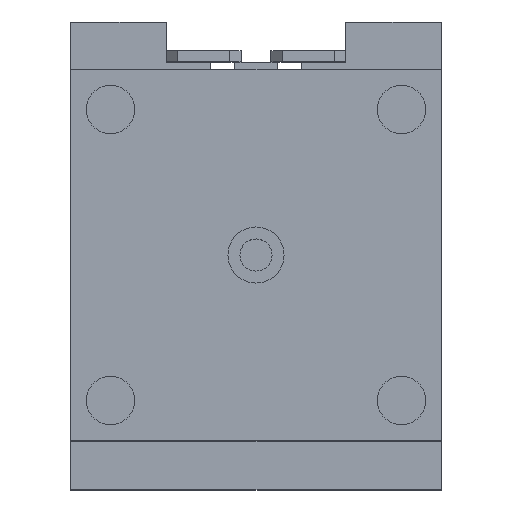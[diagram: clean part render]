
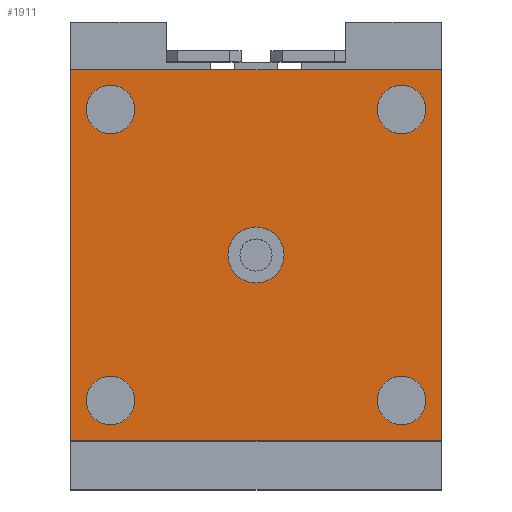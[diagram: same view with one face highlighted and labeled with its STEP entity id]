
A CAD part, top view. The second image highlights one B-rep face of the part: STEP entity #1911.
In plain terms, the highlighted planar face has unit normal (0, 0, 1).
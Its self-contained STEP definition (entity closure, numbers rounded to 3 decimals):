
#73=CARTESIAN_POINT('',(32.391,-38.891,174.));
#74=VERTEX_POINT('',#73);
#75=CARTESIAN_POINT('',(38.891,-38.891,174.));
#76=DIRECTION('',(0.0,0.0,-1.0));
#77=DIRECTION('',(1.0,0.0,0.0));
#78=AXIS2_PLACEMENT_3D('',#75,#76,#77);
#79=CIRCLE('',#78,6.5);
#80=EDGE_CURVE('',#74,#74,#79,.T.);
#110=CARTESIAN_POINT('',(-32.391,38.891,174.));
#111=VERTEX_POINT('',#110);
#112=CARTESIAN_POINT('',(-38.891,38.891,174.));
#113=DIRECTION('',(0.0,0.0,-1.0));
#114=DIRECTION('',(-1.0,0.0,0.0));
#115=AXIS2_PLACEMENT_3D('',#112,#113,#114);
#116=CIRCLE('',#115,6.5);
#117=EDGE_CURVE('',#111,#111,#116,.T.);
#1785=CARTESIAN_POINT('',(7.5,0.0,174.));
#1786=VERTEX_POINT('',#1785);
#1787=CARTESIAN_POINT('',(0.0,0.0,174.));
#1788=DIRECTION('',(0.0,0.0,-1.0));
#1789=DIRECTION('',(1.0,0.0,0.0));
#1790=AXIS2_PLACEMENT_3D('',#1787,#1788,#1789);
#1791=CIRCLE('',#1790,7.5);
#1792=EDGE_CURVE('',#1786,#1786,#1791,.T.);
#1841=CARTESIAN_POINT('',(0.,0.,174.));
#1842=DIRECTION('',(0.0,0.0,1.0));
#1843=DIRECTION('',(1.0,0.0,0.0));
#1844=AXIS2_PLACEMENT_3D('',#1841,#1842,#1843);
#1845=PLANE('',#1844);
#1846=CARTESIAN_POINT('',(49.5,49.5,174.));
#1847=VERTEX_POINT('',#1846);
#1848=CARTESIAN_POINT('',(49.5,-49.5,174.));
#1849=VERTEX_POINT('',#1848);
#1850=CARTESIAN_POINT('',(49.5,49.5,174.));
#1851=DIRECTION('',(0.0,-1.0,0.0));
#1852=VECTOR('',#1851,99.0);
#1853=LINE('',#1850,#1852);
#1854=EDGE_CURVE('',#1847,#1849,#1853,.T.);
#1855=ORIENTED_EDGE('',*,*,#1854,.F.);
#1856=CARTESIAN_POINT('',(-49.5,49.5,174.));
#1857=VERTEX_POINT('',#1856);
#1858=CARTESIAN_POINT('',(-49.5,49.5,174.));
#1859=DIRECTION('',(1.0,0.0,0.0));
#1860=VECTOR('',#1859,99.0);
#1861=LINE('',#1858,#1860);
#1862=EDGE_CURVE('',#1857,#1847,#1861,.T.);
#1863=ORIENTED_EDGE('',*,*,#1862,.F.);
#1864=CARTESIAN_POINT('',(-49.5,-49.5,174.));
#1865=VERTEX_POINT('',#1864);
#1866=CARTESIAN_POINT('',(-49.5,-49.5,174.));
#1867=DIRECTION('',(0.0,1.0,0.0));
#1868=VECTOR('',#1867,99.0);
#1869=LINE('',#1866,#1868);
#1870=EDGE_CURVE('',#1865,#1857,#1869,.T.);
#1871=ORIENTED_EDGE('',*,*,#1870,.F.);
#1872=CARTESIAN_POINT('',(49.5,-49.5,174.));
#1873=DIRECTION('',(-1.0,0.0,0.0));
#1874=VECTOR('',#1873,99.);
#1875=LINE('',#1872,#1874);
#1876=EDGE_CURVE('',#1849,#1865,#1875,.T.);
#1877=ORIENTED_EDGE('',*,*,#1876,.F.);
#1878=EDGE_LOOP('',(#1855,#1863,#1871,#1877));
#1879=FACE_OUTER_BOUND('',#1878,.T.);
#1880=CARTESIAN_POINT('',(38.891,32.391,174.));
#1881=VERTEX_POINT('',#1880);
#1882=CARTESIAN_POINT('',(38.891,38.891,174.));
#1883=DIRECTION('',(0.0,0.0,-1.0));
#1884=DIRECTION('',(0.0,1.0,0.0));
#1885=AXIS2_PLACEMENT_3D('',#1882,#1883,#1884);
#1886=CIRCLE('',#1885,6.5);
#1887=EDGE_CURVE('',#1881,#1881,#1886,.T.);
#1888=ORIENTED_EDGE('',*,*,#1887,.T.);
#1889=EDGE_LOOP('',(#1888));
#1890=FACE_BOUND('',#1889,.T.);
#1891=ORIENTED_EDGE('',*,*,#80,.T.);
#1892=EDGE_LOOP('',(#1891));
#1893=FACE_BOUND('',#1892,.T.);
#1894=CARTESIAN_POINT('',(-38.891,-32.391,174.));
#1895=VERTEX_POINT('',#1894);
#1896=CARTESIAN_POINT('',(-38.891,-38.891,174.));
#1897=DIRECTION('',(0.0,0.0,-1.0));
#1898=DIRECTION('',(0.0,-1.0,0.0));
#1899=AXIS2_PLACEMENT_3D('',#1896,#1897,#1898);
#1900=CIRCLE('',#1899,6.5);
#1901=EDGE_CURVE('',#1895,#1895,#1900,.T.);
#1902=ORIENTED_EDGE('',*,*,#1901,.T.);
#1903=EDGE_LOOP('',(#1902));
#1904=FACE_BOUND('',#1903,.T.);
#1905=ORIENTED_EDGE('',*,*,#117,.T.);
#1906=EDGE_LOOP('',(#1905));
#1907=FACE_BOUND('',#1906,.T.);
#1908=ORIENTED_EDGE('',*,*,#1792,.T.);
#1909=EDGE_LOOP('',(#1908));
#1910=FACE_BOUND('',#1909,.T.);
#1911=ADVANCED_FACE('',(#1879,#1890,#1893,#1904,#1907,#1910),#1845,.T.);
